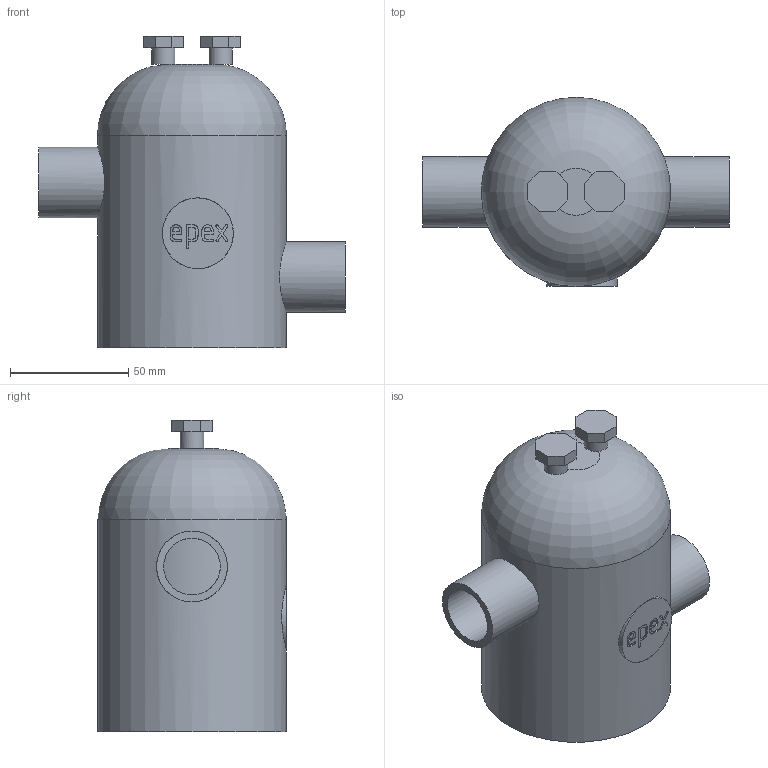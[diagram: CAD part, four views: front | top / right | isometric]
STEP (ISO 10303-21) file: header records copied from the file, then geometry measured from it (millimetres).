
FILE_DESCRIPTION((' '),'2;1');
FILE_NAME( 'Componente_Filtro.stp', '2017-03-17T12:16:09', (' '), ('--- Datakit www.datakit.com---'), ' Datakit CrossCadWare V2016.4 Sep 30 2016', 'DATAKIT 2017 (c)', ' ');
FILE_SCHEMA(('AP203_CONFIGURATION_CONTROLLED_3D_DESIGN_OF_MECHANICAL_PARTS_AND_ASSEMBLIES_MIM_LF { 1 0 10303 403 2 1 2}'));
Length unit declared in the file: millimetre
Products named in the file (1): Compo-1
Bounding box: 130 x 80 x 132 mm (x, y, z)
Volume: 580069.2 mm3; surface area: 47587.8 mm2
Topology: 1 solids, 1 shells, 66 faces, 146 edges, 95 vertices
Faces by surface type: plane 33, extrusion 17, cylinder 15, torus 1
Full cylindrical faces by diameter (mm): 10 x2, 24 x2, 30 x2, 80 x1
Entity records: 3103 total; most frequent: CARTESIAN_POINT 1784, ORIENTED_EDGE 256, DIRECTION 222, EDGE_CURVE 128, EDGE_LOOP 88, VERTEX_POINT 86, VECTOR 82, AXIS2_PLACEMENT_3D 70
